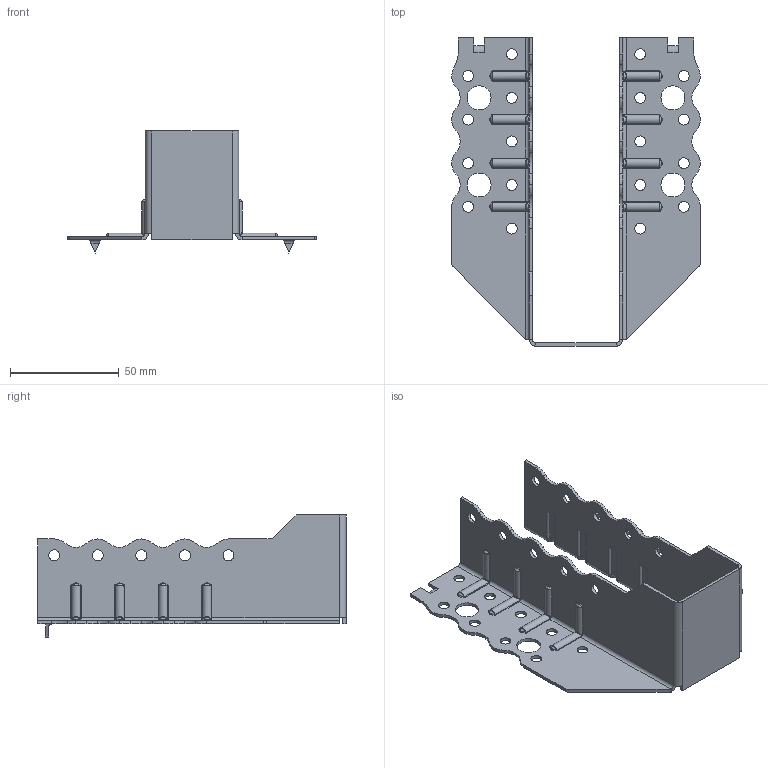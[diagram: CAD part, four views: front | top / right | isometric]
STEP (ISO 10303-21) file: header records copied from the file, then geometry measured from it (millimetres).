
FILE_DESCRIPTION (( 'STEP AP203' ), '1' );
FILE_NAME ('30605TOPK.STEP', '2021-04-08T14:16:24', ( '' ), ( '' ), 'SwSTEP 2.0', 'SolidWorks 2013', '' );
FILE_SCHEMA (( 'CONFIG_CONTROL_DESIGN' ));
Length unit declared in the file: millimetre
Products named in the file (1): 30605TOPK
Bounding box: 114 x 141.5 x 56 mm (x, y, z)
Volume: 30722 mm3; surface area: 43719.3 mm2
Topology: 1 solids, 1 shells, 509 faces, 1269 edges, 762 vertices
Faces by surface type: cylinder 251, bspline 120, plane 106, torus 16, sphere 16
Entity records: 22882 total; most frequent: CARTESIAN_POINT 11293, ORIENTED_EDGE 2538, DIRECTION 2267, EDGE_CURVE 1269, AXIS2_PLACEMENT_3D 864, VERTEX_POINT 762, EDGE_LOOP 573, LINE 539
